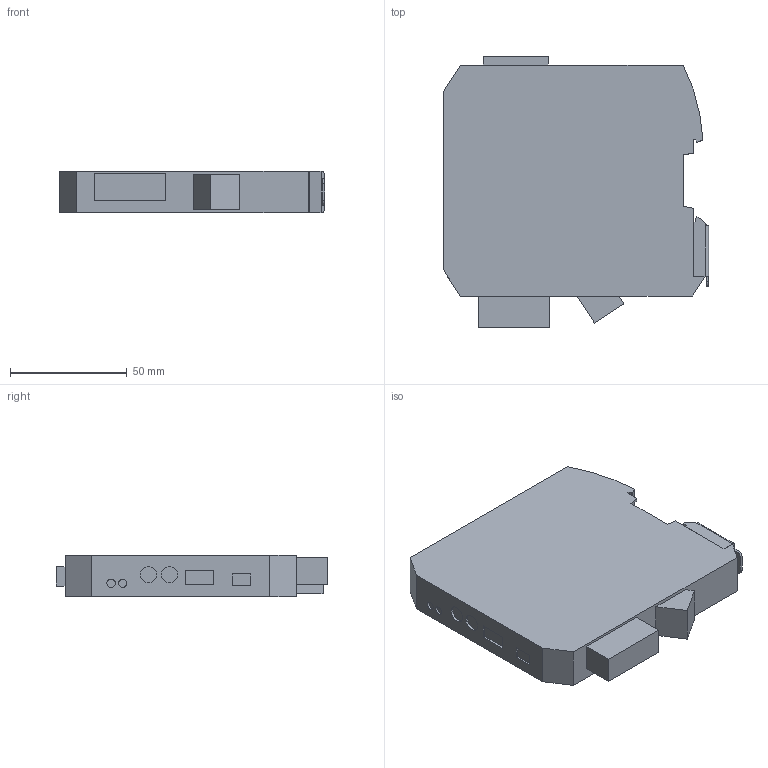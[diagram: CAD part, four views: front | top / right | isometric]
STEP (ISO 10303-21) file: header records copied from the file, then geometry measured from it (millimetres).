
FILE_DESCRIPTION (( 'STEP AP203' ), '1' );
FILE_NAME ('PDSB-BZ_3D.STEP', '2022-04-14T02:46:55', ( '' ), ( '' ), 'SwSTEP 2.0', 'SolidWorks 2018', '' );
FILE_SCHEMA (( 'CONFIG_CONTROL_DESIGN' ));
Length unit declared in the file: millimetre
Products named in the file (1): PDSB-BZ_3D
Bounding box: 113.6 x 116.3 x 17.6 mm (x, y, z)
Volume: 193913.7 mm3; surface area: 30865.9 mm2
Topology: 1 solids, 1 shells, 102 faces, 264 edges, 174 vertices
Faces by surface type: plane 92, cylinder 10
Full cylindrical faces by diameter (mm): 3.6 x2, 7 x2
Entity records: 3117 total; most frequent: CARTESIAN_POINT 537, ORIENTED_EDGE 520, DIRECTION 486, EDGE_CURVE 260, VECTOR 240, LINE 240, VERTEX_POINT 174, AXIS2_PLACEMENT_3D 123
